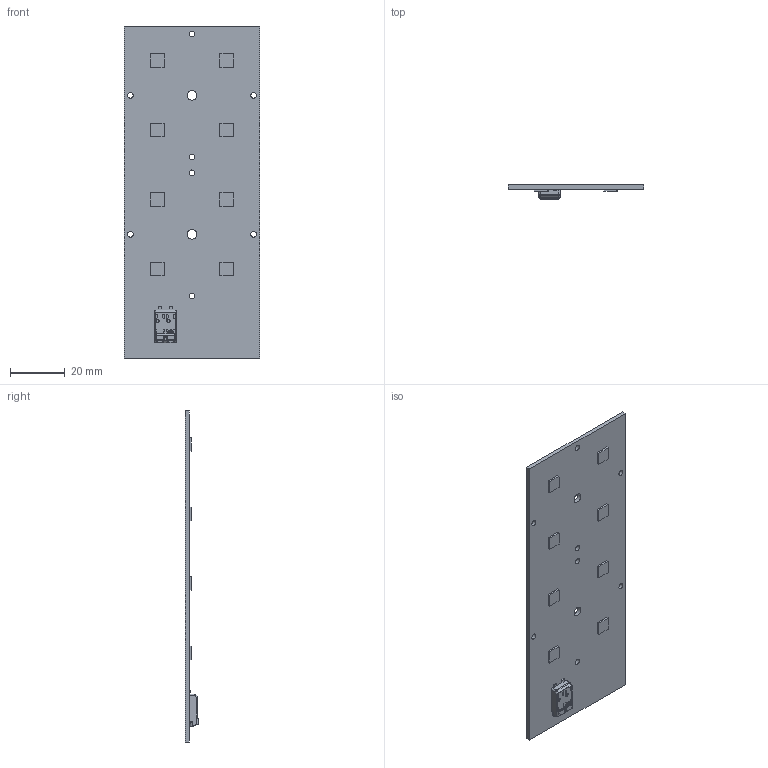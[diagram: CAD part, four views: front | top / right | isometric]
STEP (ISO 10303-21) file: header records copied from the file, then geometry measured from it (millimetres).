
FILE_DESCRIPTION(/* description */ ('Unknown'),/* implementation_level */ '2;1');
FILE_NAME(/* name */ 'RecLED 122x50mm 1900lm 2x4 5050 Opt G1 sh-000 2019-05-31',/* time_stamp */ '2019-06-03T12:16:08+02:00',/* author */ ('Unknown'),/* organization */ ('Unknown'),/* preprocessor_version */ 'ST-DEVELOPER v16.7',/* originating_system */ 'DEX',/* authorisation */ $);
FILE_SCHEMA (('AUTOMOTIVE_DESIGN {1 0 10303 214 3 1 1}'));
Length unit declared in the file: millimetre
Products named in the file (1): RecLED 122x50mm 1900lm 2x4 5050 Opt G1 sh-000 2019-05-31
Bounding box: 49.5 x 4.95 x 121.4 mm (x, y, z)
Volume: 9332.1 mm3; surface area: 13014.9 mm2
Topology: 1 solids, 1 shells, 475 faces, 1242 edges, 776 vertices
Faces by surface type: plane 221, cylinder 120, bspline 87, cone 26, torus 11, sphere 10
Full cylindrical faces by diameter (mm): 2.1 x8, 3.5 x2
Entity records: 19943 total; most frequent: CARTESIAN_POINT 5910, ORIENTED_EDGE 2406, DIRECTION 1880, EDGE_CURVE 1203, VERTEX_POINT 761, LINE 652, VECTOR 652, AXIS2_PLACEMENT_3D 614
